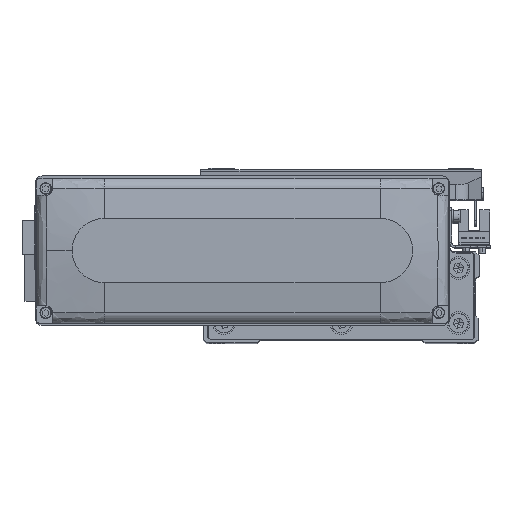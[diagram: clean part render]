
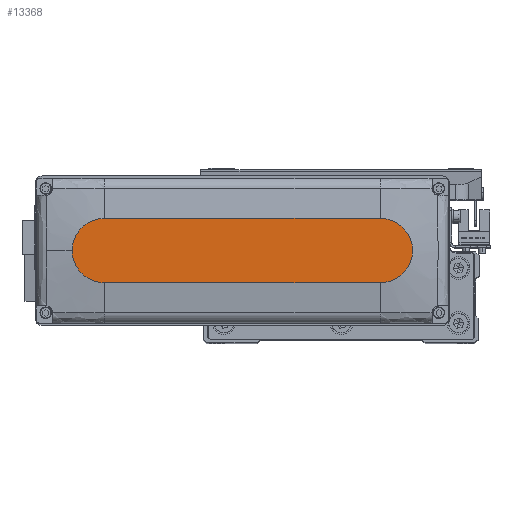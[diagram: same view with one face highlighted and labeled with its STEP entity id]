
A CAD part, top view. The second image highlights one B-rep face of the part: STEP entity #13368.
In plain terms, the highlighted planar face has unit normal (0, 0, 1).
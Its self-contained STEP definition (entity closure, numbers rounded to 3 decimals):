
#1461 = LINE ( 'NONE', #14303, #25684 ) ;
#1741 = EDGE_CURVE ( 'NONE', #29324, #7507, #41484, .T. ) ;
#2827 = CARTESIAN_POINT ( 'NONE',  ( -60., -14., 28.5 ) ) ;
#3285 = ORIENTED_EDGE ( 'NONE', *, *, #36251, .T. ) ;
#4804 = DIRECTION ( 'NONE',  ( 1., 0., 0. ) ) ;
#5637 = EDGE_CURVE ( 'NONE', #11840, #22186, #29694, .T. ) ;
#7368 = CARTESIAN_POINT ( 'NONE',  ( 74., 0., 28.5 ) ) ;
#7507 = VERTEX_POINT ( 'NONE', #7368 ) ;
#7583 = EDGE_CURVE ( 'NONE', #38994, #11840, #1461, .T. ) ;
#10406 = DIRECTION ( 'NONE',  ( 0., 0., 1. ) ) ;
#11496 = AXIS2_PLACEMENT_3D ( 'NONE', #28577, #41410, #12519 ) ;
#11840 = VERTEX_POINT ( 'NONE', #27482 ) ;
#11976 = DIRECTION ( 'NONE',  ( 1., 0., 0. ) ) ;
#12519 = DIRECTION ( 'NONE',  ( 1., 0., 0. ) ) ;
#13368 = ADVANCED_FACE ( 'NONE', ( #13564 ), #26439, .T. ) ;
#13564 = FACE_OUTER_BOUND ( 'NONE', #39268, .T. ) ;
#13882 = ORIENTED_EDGE ( 'NONE', *, *, #5637, .T. ) ;
#14015 = CARTESIAN_POINT ( 'NONE',  ( 60., 0., 28.5 ) ) ;
#14197 = ORIENTED_EDGE ( 'NONE', *, *, #7583, .T. ) ;
#14303 = CARTESIAN_POINT ( 'NONE',  ( -60., 14., 28.5 ) ) ;
#17188 = ORIENTED_EDGE ( 'NONE', *, *, #1741, .T. ) ;
#19849 = AXIS2_PLACEMENT_3D ( 'NONE', #39291, #10406, #23266 ) ;
#20011 = CARTESIAN_POINT ( 'NONE',  ( 60., 14., 28.5 ) ) ;
#20127 = VECTOR ( 'NONE', #4804, 1000. ) ;
#20833 = LINE ( 'NONE', #33687, #20127 ) ;
#21367 = CIRCLE ( 'NONE', #26751, 14. ) ;
#22186 = VERTEX_POINT ( 'NONE', #2827 ) ;
#23266 = DIRECTION ( 'NONE',  ( 1., 0., 0. ) ) ;
#25684 = VECTOR ( 'NONE', #27188, 1000. ) ;
#26334 = CARTESIAN_POINT ( 'NONE',  ( 60., -14., 28.5 ) ) ;
#26439 = PLANE ( 'NONE',  #19849 ) ;
#26751 = AXIS2_PLACEMENT_3D ( 'NONE', #14015, #26899, #39746 ) ;
#26899 = DIRECTION ( 'NONE',  ( 0., 0., 1. ) ) ;
#27188 = DIRECTION ( 'NONE',  ( -1., 0., 0. ) ) ;
#27482 = CARTESIAN_POINT ( 'NONE',  ( -60., 14., 28.5 ) ) ;
#28035 = CARTESIAN_POINT ( 'NONE',  ( 60., 0., 28.5 ) ) ;
#28577 = CARTESIAN_POINT ( 'NONE',  ( -60., 0., 28.5 ) ) ;
#29324 = VERTEX_POINT ( 'NONE', #26334 ) ;
#29694 = CIRCLE ( 'NONE', #11496, 14. ) ;
#30847 = ORIENTED_EDGE ( 'NONE', *, *, #37716, .T. ) ;
#33687 = CARTESIAN_POINT ( 'NONE',  ( -60., -14., 28.5 ) ) ;
#36251 = EDGE_CURVE ( 'NONE', #7507, #38994, #21367, .T. ) ;
#37716 = EDGE_CURVE ( 'NONE', #22186, #29324, #20833, .T. ) ;
#38994 = VERTEX_POINT ( 'NONE', #20011 ) ;
#39268 = EDGE_LOOP ( 'NONE', ( #14197, #13882, #30847, #17188, #3285 ) ) ;
#39291 = CARTESIAN_POINT ( 'NONE',  ( 0., 0., 28.5 ) ) ;
#39746 = DIRECTION ( 'NONE',  ( 1., 0., 0. ) ) ;
#40855 = AXIS2_PLACEMENT_3D ( 'NONE', #28035, #40861, #11976 ) ;
#40861 = DIRECTION ( 'NONE',  ( 0., 0., 1. ) ) ;
#41410 = DIRECTION ( 'NONE',  ( 0., 0., 1. ) ) ;
#41484 = CIRCLE ( 'NONE', #40855, 14. ) ;
